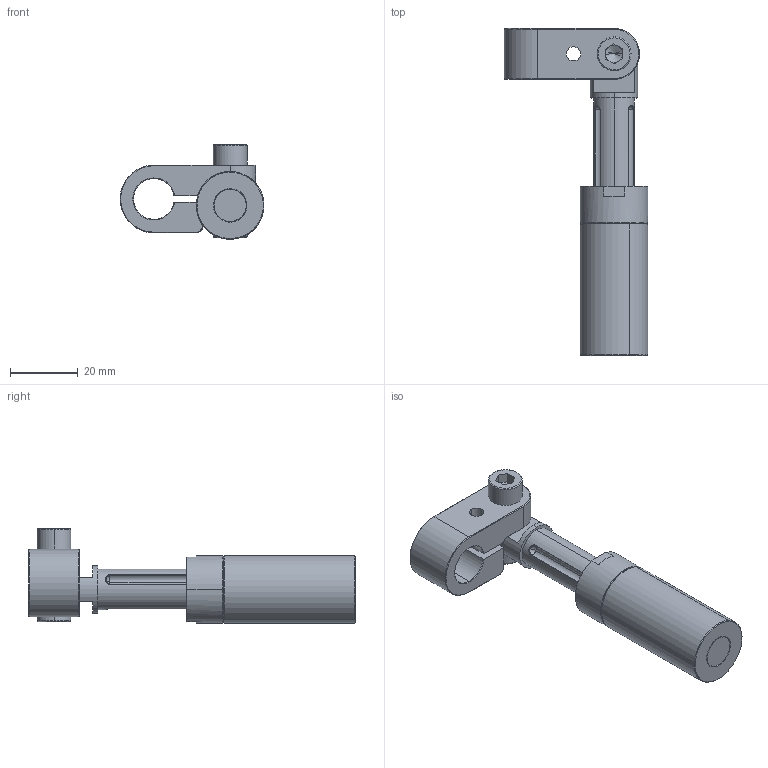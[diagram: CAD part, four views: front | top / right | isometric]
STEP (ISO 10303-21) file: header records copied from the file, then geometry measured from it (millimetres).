
FILE_DESCRIPTION (( 'STEP AP214' ), '1' );
FILE_NAME ('GSR2026-12.STEP', '2019-11-12T08:21:44', ( '微软用户' ), ( '微软中国' ), 'SwSTEP 2.0', 'SolidWorks 2016', '' );
FILE_SCHEMA (( 'AUTOMOTIVE_DESIGN' ));
Length unit declared in the file: millimetre
Products named in the file (1): GSR2026-12
Bounding box: 42.5 x 96.5 x 27.9 mm (x, y, z)
Volume: 25465.6 mm3; surface area: 15976.3 mm2
Topology: 6 solids, 6 shells, 325 faces, 800 edges, 498 vertices
Faces by surface type: cylinder 114, cone 99, plane 78, sphere 14, bspline 12, torus 8
Entity records: 18869 total; most frequent: CARTESIAN_POINT 7566, DIRECTION 1646, ORIENTED_EDGE 1592, EDGE_CURVE 796, AXIS2_PLACEMENT_3D 659, VERTEX_POINT 498, EDGE_LOOP 358, CIRCLE 345
